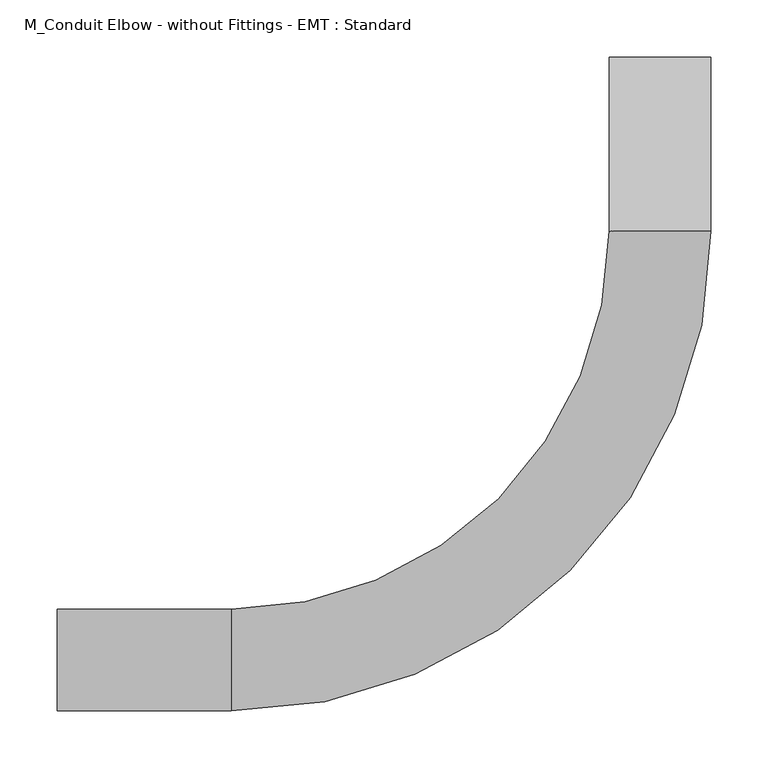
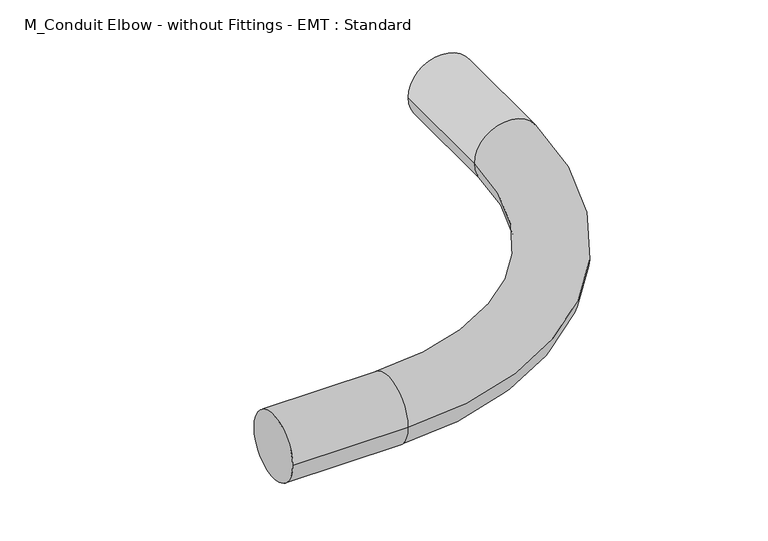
"""IFC4 building model written with IfcOpenShell, lengths in millimetres: cable carrier fitting geometry, M_Conduit Elbow - without Fittings - EMT : Standard."""

from ifc_helpers import new_model, si_unit, point, frame, origin, place, context, project, spatial, circle_curve, ellipse_curve, trimmed, source, transform, mapped, element, save
from ifc_brep_helpers import plane_surface, cylinder_surface, revolved_surface, advanced_brep


def m_conduit_elbow_without_fittings_emt_standard_daa06945(model_context):
    return source(origin(), model_context, "Body", "AdvancedBrep", [
        advanced_brep(
        [(-527.05, -44.45, 0.0), (-527.05, 44.45, 0.0), (-374.65, -44.45, 0.0), (-374.65, 44.45, 0.0), (-44.45, 374.65, 0.0), (44.45, 374.65, 0.0), (44.45, 527.05, 0.0), (-44.45, 527.05, 0.0)],
        [
            (0, 1, circle_curve(frame((-527.05, 0.0, 0.0), z_axis=(-1.0, 0.0, 0.0), x_axis=(0.0, 1.0, 0.0)), 44.45)),
            (1, 0, circle_curve(frame((-527.05, 0.0, 0.0), z_axis=(-1.0, 0.0, 0.0), x_axis=(0.0, 1.0, 0.0)), 44.45)),
            (0, 2),
            (2, 3, circle_curve(frame((-374.65, 0.0, 0.0), z_axis=(-1.0, 0.0, 0.0), x_axis=(0.0, 1.0, 0.0)), 44.45)),
            (3, 1),
            (3, 2, circle_curve(frame((-374.65, 0.0, 0.0), z_axis=(-1.0, 0.0, 0.0), x_axis=(0.0, 1.0, 0.0)), 44.45)),
            (4, 3, circle_curve(frame((-374.65, 374.65, 0.0), z_axis=(0.0, 0.0, -1.0), x_axis=(0.0, -1.0, 0.0)), 330.2)),
            (2, 5, circle_curve(frame((-374.65, 374.65, 0.0), z_axis=(0.0, 0.0, 1.0), x_axis=(0.0, -1.0, 0.0)), 419.1)),
            (5, 4, circle_curve(frame((0.0, 374.65, 0.0), z_axis=(0.0, -1.0, 0.0), x_axis=(-1.0, 0.0, 0.0)), 44.45)),
            (4, 5, circle_curve(frame((0.0, 374.65, 0.0), z_axis=(0.0, -1.0, 0.0), x_axis=(-1.0, 0.0, 0.0)), 44.45)),
            (6, 7, circle_curve(frame((0.0, 527.05, 0.0), z_axis=(0.0, 1.0, 0.0), x_axis=(-1.0, 0.0, 0.0)), 44.45)),
            (7, 6, circle_curve(frame((0.0, 527.05, 0.0), z_axis=(0.0, 1.0, 0.0), x_axis=(-1.0, 0.0, 0.0)), 44.45)),
            (5, 6),
            (7, 4),
        ],
        [
            plane_surface(frame((-527.05, 0.0, 0.0), z_axis=(-1.0, 0.0, 0.0), x_axis=(0.0, 0.0, 1.0))),
            cylinder_surface(frame((-527.05, 0.0, 0.0), z_axis=(-1.0, 0.0, 0.0), x_axis=(0.0, 1.0, 0.0)), 44.45),
            revolved_surface(trimmed(ellipse_curve(frame((-374.65, 0.0, 0.0), z_axis=(-1.0, 0.0, 0.0), x_axis=(0.0, 1.0, 0.0)), 44.45, 44.45), [point((-374.65, -44.45, 0.0))], [point((-374.65, 44.45, 0.0))], True, "CARTESIAN"), (-374.65, 374.65, 0.0), (0.0, 0.0, 1.0)),
            revolved_surface(trimmed(ellipse_curve(frame((-374.65, 0.0, 0.0), z_axis=(-1.0, 0.0, 0.0), x_axis=(0.0, 1.0, 0.0)), 44.45, 44.45), [point((-374.65, 44.45, 0.0))], [point((-374.65, -44.45, 0.0))], True, "CARTESIAN"), (-374.65, 374.65, 0.0), (0.0, 0.0, 1.0)),
            plane_surface(frame((0.0, 527.05, 0.0), z_axis=(0.0, 1.0, 0.0), x_axis=(0.0, 0.0, 1.0))),
            cylinder_surface(frame((0.0, 374.65, 0.0), z_axis=(0.0, -1.0, 0.0), x_axis=(-1.0, 0.0, 0.0)), 44.45),
        ],
        [
            (0, [[1, 2]]),
            (1, [[-1, 3, 4, 5]]),
            (1, [[-2, -5, 6, -3]]),
            (2, [[7, -4, 8, 9]]),
            (3, [[-8, -6, -7, 10]]),
            (4, [[11, 12]]),
            (5, [[-9, 13, -12, 14]]),
            (5, [[-10, -14, -11, -13]]),
        ],
    ),
    ])


if __name__ == "__main__":
    model = new_model("IFC4")
    model_context = context("Model", 3, world=origin())
    ifc_project = project(units=[si_unit("LENGTHUNIT", "METRE", prefix="MILLI")], contexts=[model_context])
    site = spatial("IfcSite", under=ifc_project)
    building = spatial("IfcBuilding", under=site)
    placement = place(None, origin())
    m_conduit_elbow_without_fittings_emt_standard_shape = m_conduit_elbow_without_fittings_emt_standard_daa06945(model_context)
    element("IfcCableCarrierFitting", 1, ObjectType="M_Conduit Elbow - without Fittings - EMT : Standard", at=placement, inside=building, context=model_context, shape_type="MappedRepresentation", body=[
        mapped(m_conduit_elbow_without_fittings_emt_standard_shape, transform((0.0, 0.0, 0.0), x_axis=(1.0, 0.0, 0.0), y_axis=(0.0, 1.0, 0.0), z_axis=(0.0, 0.0, 1.0))),
    ])
    save(model, "model.ifc")
